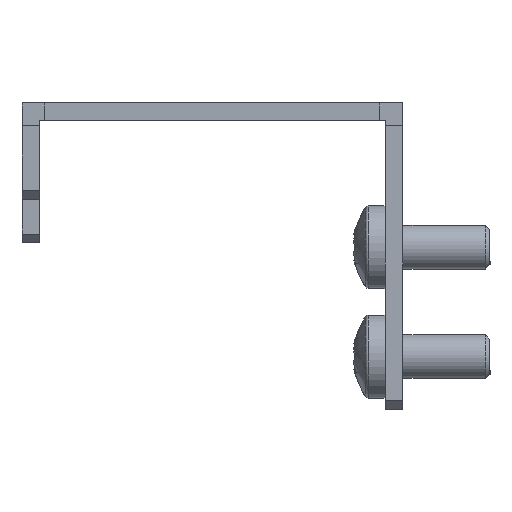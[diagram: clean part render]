
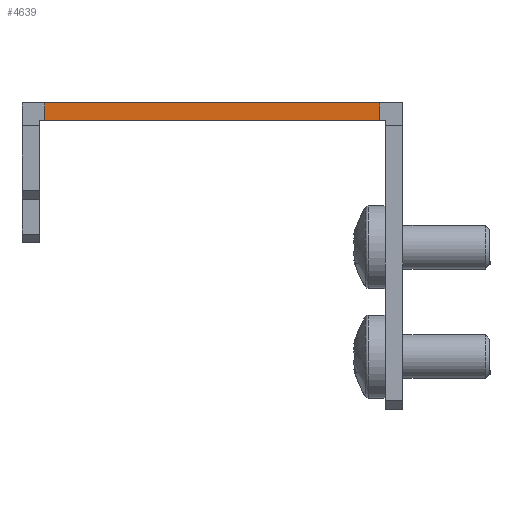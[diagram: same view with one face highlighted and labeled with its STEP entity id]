
A CAD part, left-side view. The second image highlights one B-rep face of the part: STEP entity #4639.
In plain terms, the highlighted planar face has unit normal (-1, 0, 0) as drawn and (1, 0, 0) by its records, which use the part's own axes.
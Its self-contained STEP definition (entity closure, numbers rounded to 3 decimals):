
#3174 = VERTEX_POINT('',#3175);
#3175 = CARTESIAN_POINT('',(181.,19.15,-2.));
#3181 = EDGE_CURVE('',#3182,#3174,#3184,.T.);
#3182 = VERTEX_POINT('',#3183);
#3183 = CARTESIAN_POINT('',(181.,-19.15,-2.));
#3184 = LINE('',#3185,#3186);
#3185 = CARTESIAN_POINT('',(181.,-21.75,-2.));
#3186 = VECTOR('',#3187,1.);
#3187 = DIRECTION('',(0.,1.,0.));
#4419 = VERTEX_POINT('',#4420);
#4420 = CARTESIAN_POINT('',(181.,-19.15,0.));
#4426 = EDGE_CURVE('',#4419,#4427,#4429,.T.);
#4427 = VERTEX_POINT('',#4428);
#4428 = CARTESIAN_POINT('',(181.,19.15,0.));
#4429 = LINE('',#4430,#4431);
#4430 = CARTESIAN_POINT('',(181.,-21.75,0.));
#4431 = VECTOR('',#4432,1.);
#4432 = DIRECTION('',(0.,1.,0.));
#4639 = ADVANCED_FACE('',(#4640),#4656,.T.);
#4640 = FACE_BOUND('',#4641,.T.);
#4641 = EDGE_LOOP('',(#4642,#4648,#4649,#4655));
#4642 = ORIENTED_EDGE('',*,*,#4643,.F.);
#4643 = EDGE_CURVE('',#3182,#4419,#4644,.T.);
#4644 = LINE('',#4645,#4646);
#4645 = CARTESIAN_POINT('',(181.,-19.15,-2.));
#4646 = VECTOR('',#4647,1.);
#4647 = DIRECTION('',(0.,0.,1.));
#4648 = ORIENTED_EDGE('',*,*,#3181,.T.);
#4649 = ORIENTED_EDGE('',*,*,#4650,.T.);
#4650 = EDGE_CURVE('',#3174,#4427,#4651,.T.);
#4651 = LINE('',#4652,#4653);
#4652 = CARTESIAN_POINT('',(181.,19.15,-2.));
#4653 = VECTOR('',#4654,1.);
#4654 = DIRECTION('',(0.,0.,1.));
#4655 = ORIENTED_EDGE('',*,*,#4426,.F.);
#4656 = PLANE('',#4657);
#4657 = AXIS2_PLACEMENT_3D('',#4658,#4659,#4660);
#4658 = CARTESIAN_POINT('',(181.,-21.75,-2.));
#4659 = DIRECTION('',(1.,0.,0.));
#4660 = DIRECTION('',(0.,0.,-1.));
